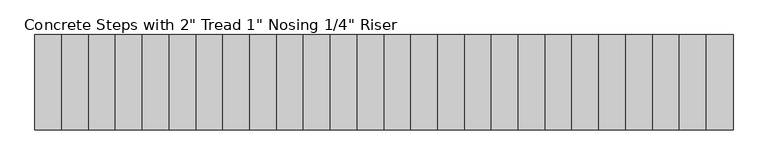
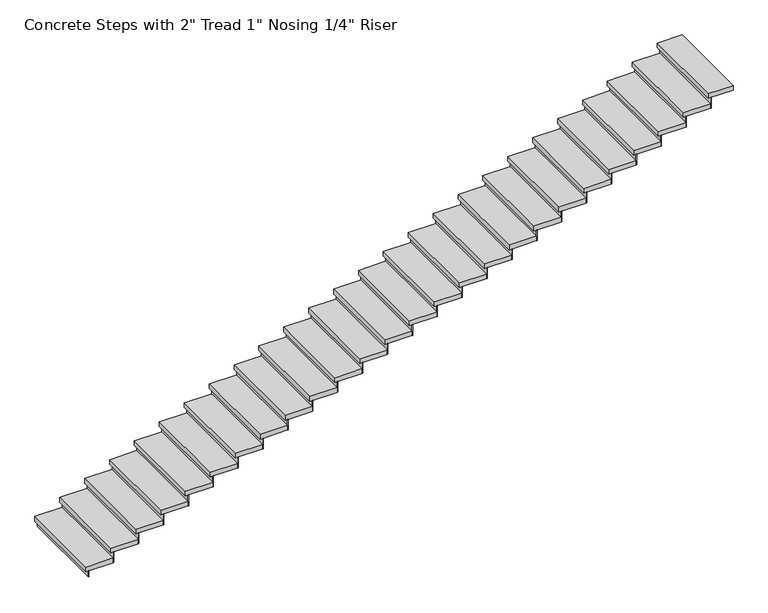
"""IFC4 building model written with IfcOpenShell, lengths in millimetres: stair flight geometry."""

from ifc_helpers import new_model, si_unit, frame, origin, origin_with_axes, place, context, project, spatial, polyline, outline, extrude, source, transform, mapped, element, save


def stair_flight_132ea6d3(model_context):
    return source(origin(), model_context, "Body", "SweptSolid", [
        extrude(outline(polyline([(-13769.987319, -5698.5653686), (-13776.337319, -5698.5653686), (-13776.337319, -4784.1653686), (-13769.987319, -4784.1653686), (-13769.987319, -5698.5653686)])), origin_with_axes(), (0.0, 0.0, 1.0), 66.4307692),
        extrude(outline(polyline([(-13518.527319, -4784.1653686), (-13518.527319, -5698.5653686), (-13801.737319, -5698.5653686), (-13801.737319, -4784.1653686), (-13518.527319, -4784.1653686)])), frame((0.0, 0.0, 66.4307692), z_axis=(0.0, 0.0, 1.0), x_axis=(1.0, 0.0, 0.0)), (0.0, 0.0, 1.0), 50.8),
        extrude(outline(polyline([(-13512.177319, -5698.5653686), (-13518.527319, -5698.5653686), (-13518.527319, -4784.1653686), (-13512.177319, -4784.1653686), (-13512.177319, -5698.5653686)])), frame((0.0, 0.0, 66.4307692), z_axis=(0.0, 0.0, 1.0), x_axis=(1.0, 0.0, 0.0)), (0.0, 0.0, 1.0), 117.2307692),
        extrude(outline(polyline([(-13260.717319, -4784.1653686), (-13260.717319, -5698.5653686), (-13543.927319, -5698.5653686), (-13543.927319, -4784.1653686), (-13260.717319, -4784.1653686)])), frame((0.0, 0.0, 183.6615385), z_axis=(0.0, 0.0, 1.0), x_axis=(1.0, 0.0, 0.0)), (0.0, 0.0, 1.0), 50.8),
        extrude(outline(polyline([(-13254.367319, -5698.5653686), (-13260.717319, -5698.5653686), (-13260.717319, -4784.1653686), (-13254.367319, -4784.1653686), (-13254.367319, -5698.5653686)])), frame((0.0, 0.0, 183.6615385), z_axis=(0.0, 0.0, 1.0), x_axis=(1.0, 0.0, 0.0)), (0.0, 0.0, 1.0), 117.2307692),
        extrude(outline(polyline([(-13002.907319, -4784.1653686), (-13002.907319, -5698.5653686), (-13286.117319, -5698.5653686), (-13286.117319, -4784.1653686), (-13002.907319, -4784.1653686)])), frame((0.0, 0.0, 300.8923077), z_axis=(0.0, 0.0, 1.0), x_axis=(1.0, 0.0, 0.0)), (0.0, 0.0, 1.0), 50.8),
        extrude(outline(polyline([(-12996.557319, -5698.5653686), (-13002.907319, -5698.5653686), (-13002.907319, -4784.1653686), (-12996.557319, -4784.1653686), (-12996.557319, -5698.5653686)])), frame((0.0, 0.0, 300.8923077), z_axis=(0.0, 0.0, 1.0), x_axis=(1.0, 0.0, 0.0)), (0.0, 0.0, 1.0), 117.2307692),
        extrude(outline(polyline([(-12745.097319, -4784.1653686), (-12745.097319, -5698.5653686), (-13028.307319, -5698.5653686), (-13028.307319, -4784.1653686), (-12745.097319, -4784.1653686)])), frame((0.0, 0.0, 418.1230769), z_axis=(0.0, 0.0, 1.0), x_axis=(1.0, 0.0, 0.0)), (0.0, 0.0, 1.0), 50.8),
        extrude(outline(polyline([(-12738.747319, -5698.5653686), (-12745.097319, -5698.5653686), (-12745.097319, -4784.1653686), (-12738.747319, -4784.1653686), (-12738.747319, -5698.5653686)])), frame((0.0, 0.0, 418.1230769), z_axis=(0.0, 0.0, 1.0), x_axis=(1.0, 0.0, 0.0)), (0.0, 0.0, 1.0), 117.2307692),
        extrude(outline(polyline([(-12487.287319, -4784.1653686), (-12487.287319, -5698.5653686), (-12770.497319, -5698.5653686), (-12770.497319, -4784.1653686), (-12487.287319, -4784.1653686)])), frame((0.0, 0.0, 535.3538462), z_axis=(0.0, 0.0, 1.0), x_axis=(1.0, 0.0, 0.0)), (0.0, 0.0, 1.0), 50.8),
        extrude(outline(polyline([(-12480.937319, -5698.5653686), (-12487.287319, -5698.5653686), (-12487.287319, -4784.1653686), (-12480.937319, -4784.1653686), (-12480.937319, -5698.5653686)])), frame((0.0, 0.0, 535.3538462), z_axis=(0.0, 0.0, 1.0), x_axis=(1.0, 0.0, 0.0)), (0.0, 0.0, 1.0), 117.2307692),
        extrude(outline(polyline([(-12229.477319, -4784.1653686), (-12229.477319, -5698.5653686), (-12512.687319, -5698.5653686), (-12512.687319, -4784.1653686), (-12229.477319, -4784.1653686)])), frame((0.0, 0.0, 652.5846154), z_axis=(0.0, 0.0, 1.0), x_axis=(1.0, 0.0, 0.0)), (0.0, 0.0, 1.0), 50.8),
        extrude(outline(polyline([(-12223.127319, -5698.5653686), (-12229.477319, -5698.5653686), (-12229.477319, -4784.1653686), (-12223.127319, -4784.1653686), (-12223.127319, -5698.5653686)])), frame((0.0, 0.0, 652.5846154), z_axis=(0.0, 0.0, 1.0), x_axis=(1.0, 0.0, 0.0)), (0.0, 0.0, 1.0), 117.2307692),
        extrude(outline(polyline([(-11971.667319, -4784.1653686), (-11971.667319, -5698.5653686), (-12254.877319, -5698.5653686), (-12254.877319, -4784.1653686), (-11971.667319, -4784.1653686)])), frame((0.0, 0.0, 769.8153846), z_axis=(0.0, 0.0, 1.0), x_axis=(1.0, 0.0, 0.0)), (0.0, 0.0, 1.0), 50.8),
        extrude(outline(polyline([(-11965.317319, -5698.5653686), (-11971.667319, -5698.5653686), (-11971.667319, -4784.1653686), (-11965.317319, -4784.1653686), (-11965.317319, -5698.5653686)])), frame((0.0, 0.0, 769.8153846), z_axis=(0.0, 0.0, 1.0), x_axis=(1.0, 0.0, 0.0)), (0.0, 0.0, 1.0), 117.2307692),
        extrude(outline(polyline([(-11713.857319, -4784.1653686), (-11713.857319, -5698.5653686), (-11997.067319, -5698.5653686), (-11997.067319, -4784.1653686), (-11713.857319, -4784.1653686)])), frame((0.0, 0.0, 887.0461538), z_axis=(0.0, 0.0, 1.0), x_axis=(1.0, 0.0, 0.0)), (0.0, 0.0, 1.0), 50.8),
        extrude(outline(polyline([(-11707.507319, -5698.5653686), (-11713.857319, -5698.5653686), (-11713.857319, -4784.1653686), (-11707.507319, -4784.1653686), (-11707.507319, -5698.5653686)])), frame((0.0, 0.0, 887.0461538), z_axis=(0.0, 0.0, 1.0), x_axis=(1.0, 0.0, 0.0)), (0.0, 0.0, 1.0), 117.2307692),
        extrude(outline(polyline([(-11456.047319, -4784.1653686), (-11456.047319, -5698.5653686), (-11739.257319, -5698.5653686), (-11739.257319, -4784.1653686), (-11456.047319, -4784.1653686)])), frame((0.0, 0.0, 1004.2769231), z_axis=(0.0, 0.0, 1.0), x_axis=(1.0, 0.0, 0.0)), (0.0, 0.0, 1.0), 50.8),
        extrude(outline(polyline([(-11449.697319, -5698.5653686), (-11456.047319, -5698.5653686), (-11456.047319, -4784.1653686), (-11449.697319, -4784.1653686), (-11449.697319, -5698.5653686)])), frame((0.0, 0.0, 1004.2769231), z_axis=(0.0, 0.0, 1.0), x_axis=(1.0, 0.0, 0.0)), (0.0, 0.0, 1.0), 117.2307692),
        extrude(outline(polyline([(-11198.237319, -4784.1653686), (-11198.237319, -5698.5653686), (-11481.447319, -5698.5653686), (-11481.447319, -4784.1653686), (-11198.237319, -4784.1653686)])), frame((0.0, 0.0, 1121.5076923), z_axis=(0.0, 0.0, 1.0), x_axis=(1.0, 0.0, 0.0)), (0.0, 0.0, 1.0), 50.8),
        extrude(outline(polyline([(-11191.887319, -5698.5653686), (-11198.237319, -5698.5653686), (-11198.237319, -4784.1653686), (-11191.887319, -4784.1653686), (-11191.887319, -5698.5653686)])), frame((0.0, 0.0, 1121.5076923), z_axis=(0.0, 0.0, 1.0), x_axis=(1.0, 0.0, 0.0)), (0.0, 0.0, 1.0), 117.2307692),
        extrude(outline(polyline([(-10940.427319, -4784.1653686), (-10940.427319, -5698.5653686), (-11223.637319, -5698.5653686), (-11223.637319, -4784.1653686), (-10940.427319, -4784.1653686)])), frame((0.0, 0.0, 1238.7384615), z_axis=(0.0, 0.0, 1.0), x_axis=(1.0, 0.0, 0.0)), (0.0, 0.0, 1.0), 50.8),
        extrude(outline(polyline([(-10934.077319, -5698.5653686), (-10940.427319, -5698.5653686), (-10940.427319, -4784.1653686), (-10934.077319, -4784.1653686), (-10934.077319, -5698.5653686)])), frame((0.0, 0.0, 1238.7384615), z_axis=(0.0, 0.0, 1.0), x_axis=(1.0, 0.0, 0.0)), (0.0, 0.0, 1.0), 117.2307692),
        extrude(outline(polyline([(-10682.617319, -4784.1653686), (-10682.617319, -5698.5653686), (-10965.827319, -5698.5653686), (-10965.827319, -4784.1653686), (-10682.617319, -4784.1653686)])), frame((0.0, 0.0, 1355.9692308), z_axis=(0.0, 0.0, 1.0), x_axis=(1.0, 0.0, 0.0)), (0.0, 0.0, 1.0), 50.8),
        extrude(outline(polyline([(-10676.267319, -5698.5653686), (-10682.617319, -5698.5653686), (-10682.617319, -4784.1653686), (-10676.267319, -4784.1653686), (-10676.267319, -5698.5653686)])), frame((0.0, 0.0, 1355.9692308), z_axis=(0.0, 0.0, 1.0), x_axis=(1.0, 0.0, 0.0)), (0.0, 0.0, 1.0), 117.2307692),
        extrude(outline(polyline([(-10424.807319, -4784.1653686), (-10424.807319, -5698.5653686), (-10708.017319, -5698.5653686), (-10708.017319, -4784.1653686), (-10424.807319, -4784.1653686)])), frame((0.0, 0.0, 1473.2), z_axis=(0.0, 0.0, 1.0), x_axis=(1.0, 0.0, 0.0)), (0.0, 0.0, 1.0), 50.8),
        extrude(outline(polyline([(-10418.457319, -5698.5653686), (-10424.807319, -5698.5653686), (-10424.807319, -4784.1653686), (-10418.457319, -4784.1653686), (-10418.457319, -5698.5653686)])), frame((0.0, 0.0, 1473.2), z_axis=(0.0, 0.0, 1.0), x_axis=(1.0, 0.0, 0.0)), (0.0, 0.0, 1.0), 117.2307692),
        extrude(outline(polyline([(-10166.997319, -4784.1653686), (-10166.997319, -5698.5653686), (-10450.207319, -5698.5653686), (-10450.207319, -4784.1653686), (-10166.997319, -4784.1653686)])), frame((0.0, 0.0, 1590.4307692), z_axis=(0.0, 0.0, 1.0), x_axis=(1.0, 0.0, 0.0)), (0.0, 0.0, 1.0), 50.8),
        extrude(outline(polyline([(-10160.647319, -5698.5653686), (-10166.997319, -5698.5653686), (-10166.997319, -4784.1653686), (-10160.647319, -4784.1653686), (-10160.647319, -5698.5653686)])), frame((0.0, 0.0, 1590.4307692), z_axis=(0.0, 0.0, 1.0), x_axis=(1.0, 0.0, 0.0)), (0.0, 0.0, 1.0), 117.2307692),
        extrude(outline(polyline([(-9909.187319, -4784.1653686), (-9909.187319, -5698.5653686), (-10192.397319, -5698.5653686), (-10192.397319, -4784.1653686), (-9909.187319, -4784.1653686)])), frame((0.0, 0.0, 1707.6615385), z_axis=(0.0, 0.0, 1.0), x_axis=(1.0, 0.0, 0.0)), (0.0, 0.0, 1.0), 50.8),
        extrude(outline(polyline([(-9902.837319, -5698.5653686), (-9909.187319, -5698.5653686), (-9909.187319, -4784.1653686), (-9902.837319, -4784.1653686), (-9902.837319, -5698.5653686)])), frame((0.0, 0.0, 1707.6615385), z_axis=(0.0, 0.0, 1.0), x_axis=(1.0, 0.0, 0.0)), (0.0, 0.0, 1.0), 117.2307692),
        extrude(outline(polyline([(-9651.377319, -4784.1653686), (-9651.377319, -5698.5653686), (-9934.587319, -5698.5653686), (-9934.587319, -4784.1653686), (-9651.377319, -4784.1653686)])), frame((0.0, 0.0, 1824.8923077), z_axis=(0.0, 0.0, 1.0), x_axis=(1.0, 0.0, 0.0)), (0.0, 0.0, 1.0), 50.8),
        extrude(outline(polyline([(-9645.027319, -5698.5653686), (-9651.377319, -5698.5653686), (-9651.377319, -4784.1653686), (-9645.027319, -4784.1653686), (-9645.027319, -5698.5653686)])), frame((0.0, 0.0, 1824.8923077), z_axis=(0.0, 0.0, 1.0), x_axis=(1.0, 0.0, 0.0)), (0.0, 0.0, 1.0), 117.2307692),
        extrude(outline(polyline([(-9393.567319, -4784.1653686), (-9393.567319, -5698.5653686), (-9676.777319, -5698.5653686), (-9676.777319, -4784.1653686), (-9393.567319, -4784.1653686)])), frame((0.0, 0.0, 1942.1230769), z_axis=(0.0, 0.0, 1.0), x_axis=(1.0, 0.0, 0.0)), (0.0, 0.0, 1.0), 50.8),
        extrude(outline(polyline([(-9387.217319, -5698.5653686), (-9393.567319, -5698.5653686), (-9393.567319, -4784.1653686), (-9387.217319, -4784.1653686), (-9387.217319, -5698.5653686)])), frame((0.0, 0.0, 1942.1230769), z_axis=(0.0, 0.0, 1.0), x_axis=(1.0, 0.0, 0.0)), (0.0, 0.0, 1.0), 117.2307692),
        extrude(outline(polyline([(-9135.757319, -4784.1653686), (-9135.757319, -5698.5653686), (-9418.967319, -5698.5653686), (-9418.967319, -4784.1653686), (-9135.757319, -4784.1653686)])), frame((0.0, 0.0, 2059.3538462), z_axis=(0.0, 0.0, 1.0), x_axis=(1.0, 0.0, 0.0)), (0.0, 0.0, 1.0), 50.8),
        extrude(outline(polyline([(-9129.407319, -5698.5653686), (-9135.757319, -5698.5653686), (-9135.757319, -4784.1653686), (-9129.407319, -4784.1653686), (-9129.407319, -5698.5653686)])), frame((0.0, 0.0, 2059.3538462), z_axis=(0.0, 0.0, 1.0), x_axis=(1.0, 0.0, 0.0)), (0.0, 0.0, 1.0), 117.2307692),
        extrude(outline(polyline([(-8877.947319, -4784.1653686), (-8877.947319, -5698.5653686), (-9161.157319, -5698.5653686), (-9161.157319, -4784.1653686), (-8877.947319, -4784.1653686)])), frame((0.0, 0.0, 2176.5846154), z_axis=(0.0, 0.0, 1.0), x_axis=(1.0, 0.0, 0.0)), (0.0, 0.0, 1.0), 50.8),
        extrude(outline(polyline([(-8871.597319, -5698.5653686), (-8877.947319, -5698.5653686), (-8877.947319, -4784.1653686), (-8871.597319, -4784.1653686), (-8871.597319, -5698.5653686)])), frame((0.0, 0.0, 2176.5846154), z_axis=(0.0, 0.0, 1.0), x_axis=(1.0, 0.0, 0.0)), (0.0, 0.0, 1.0), 117.2307692),
        extrude(outline(polyline([(-8620.137319, -4784.1653686), (-8620.137319, -5698.5653686), (-8903.347319, -5698.5653686), (-8903.347319, -4784.1653686), (-8620.137319, -4784.1653686)])), frame((0.0, 0.0, 2293.8153846), z_axis=(0.0, 0.0, 1.0), x_axis=(1.0, 0.0, 0.0)), (0.0, 0.0, 1.0), 50.8),
        extrude(outline(polyline([(-8613.787319, -5698.5653686), (-8620.137319, -5698.5653686), (-8620.137319, -4784.1653686), (-8613.787319, -4784.1653686), (-8613.787319, -5698.5653686)])), frame((0.0, 0.0, 2293.8153846), z_axis=(0.0, 0.0, 1.0), x_axis=(1.0, 0.0, 0.0)), (0.0, 0.0, 1.0), 117.2307692),
        extrude(outline(polyline([(-8362.327319, -4784.1653686), (-8362.327319, -5698.5653686), (-8645.537319, -5698.5653686), (-8645.537319, -4784.1653686), (-8362.327319, -4784.1653686)])), frame((0.0, 0.0, 2411.0461538), z_axis=(0.0, 0.0, 1.0), x_axis=(1.0, 0.0, 0.0)), (0.0, 0.0, 1.0), 50.8),
        extrude(outline(polyline([(-8355.977319, -5698.5653686), (-8362.327319, -5698.5653686), (-8362.327319, -4784.1653686), (-8355.977319, -4784.1653686), (-8355.977319, -5698.5653686)])), frame((0.0, 0.0, 2411.0461538), z_axis=(0.0, 0.0, 1.0), x_axis=(1.0, 0.0, 0.0)), (0.0, 0.0, 1.0), 117.2307692),
        extrude(outline(polyline([(-8104.517319, -4784.1653686), (-8104.517319, -5698.5653686), (-8387.727319, -5698.5653686), (-8387.727319, -4784.1653686), (-8104.517319, -4784.1653686)])), frame((0.0, 0.0, 2528.2769231), z_axis=(0.0, 0.0, 1.0), x_axis=(1.0, 0.0, 0.0)), (0.0, 0.0, 1.0), 50.8),
        extrude(outline(polyline([(-8098.167319, -5698.5653686), (-8104.517319, -5698.5653686), (-8104.517319, -4784.1653686), (-8098.167319, -4784.1653686), (-8098.167319, -5698.5653686)])), frame((0.0, 0.0, 2528.2769231), z_axis=(0.0, 0.0, 1.0), x_axis=(1.0, 0.0, 0.0)), (0.0, 0.0, 1.0), 117.2307692),
        extrude(outline(polyline([(-7846.707319, -4784.1653686), (-7846.707319, -5698.5653686), (-8129.917319, -5698.5653686), (-8129.917319, -4784.1653686), (-7846.707319, -4784.1653686)])), frame((0.0, 0.0, 2645.5076923), z_axis=(0.0, 0.0, 1.0), x_axis=(1.0, 0.0, 0.0)), (0.0, 0.0, 1.0), 50.8),
        extrude(outline(polyline([(-7840.357319, -5698.5653686), (-7846.707319, -5698.5653686), (-7846.707319, -4784.1653686), (-7840.357319, -4784.1653686), (-7840.357319, -5698.5653686)])), frame((0.0, 0.0, 2645.5076923), z_axis=(0.0, 0.0, 1.0), x_axis=(1.0, 0.0, 0.0)), (0.0, 0.0, 1.0), 117.2307692),
        extrude(outline(polyline([(-7588.897319, -4784.1653686), (-7588.897319, -5698.5653686), (-7872.107319, -5698.5653686), (-7872.107319, -4784.1653686), (-7588.897319, -4784.1653686)])), frame((0.0, 0.0, 2762.7384615), z_axis=(0.0, 0.0, 1.0), x_axis=(1.0, 0.0, 0.0)), (0.0, 0.0, 1.0), 50.8),
        extrude(outline(polyline([(-7582.547319, -5698.5653686), (-7588.897319, -5698.5653686), (-7588.897319, -4784.1653686), (-7582.547319, -4784.1653686), (-7582.547319, -5698.5653686)])), frame((0.0, 0.0, 2762.7384615), z_axis=(0.0, 0.0, 1.0), x_axis=(1.0, 0.0, 0.0)), (0.0, 0.0, 1.0), 117.2307692),
        extrude(outline(polyline([(-7331.087319, -4784.1653686), (-7331.087319, -5698.5653686), (-7614.297319, -5698.5653686), (-7614.297319, -4784.1653686), (-7331.087319, -4784.1653686)])), frame((0.0, 0.0, 2879.9692308), z_axis=(0.0, 0.0, 1.0), x_axis=(1.0, 0.0, 0.0)), (0.0, 0.0, 1.0), 50.8),
        extrude(outline(polyline([(-7324.737319, -5698.5653686), (-7331.087319, -5698.5653686), (-7331.087319, -4784.1653686), (-7324.737319, -4784.1653686), (-7324.737319, -5698.5653686)])), frame((0.0, 0.0, 2879.9692308), z_axis=(0.0, 0.0, 1.0), x_axis=(1.0, 0.0, 0.0)), (0.0, 0.0, 1.0), 117.2307692),
        extrude(outline(polyline([(-7098.677319, -4784.1653686), (-7098.677319, -5698.5653686), (-7356.487319, -5698.5653686), (-7356.487319, -4784.1653686), (-7098.677319, -4784.1653686)])), frame((0.0, 0.0, 2997.2), z_axis=(0.0, 0.0, 1.0), x_axis=(1.0, 0.0, 0.0)), (0.0, 0.0, 1.0), 50.8),
    ])


if __name__ == "__main__":
    model = new_model("IFC4")
    model_context = context("Model", 3, world=origin())
    ifc_project = project(units=[si_unit("LENGTHUNIT", "METRE", prefix="MILLI")], contexts=[model_context])
    site = spatial("IfcSite", under=ifc_project)
    building = spatial("IfcBuilding", under=site)
    placement = place(None, origin())
    stair_flight_shape = stair_flight_132ea6d3(model_context)
    element("IfcStairFlight", 1, ObjectType="Concrete Steps with 2\" Tread 1\" Nosing 1/4\" Riser", at=placement, inside=building, context=model_context, shape_type="MappedRepresentation", body=[
        mapped(stair_flight_shape, transform((0.0, 0.0, 0.0), x_axis=(1.0, 0.0, 0.0), y_axis=(0.0, 1.0, 0.0), z_axis=(0.0, 0.0, 1.0))),
    ])
    save(model, "model.ifc")
